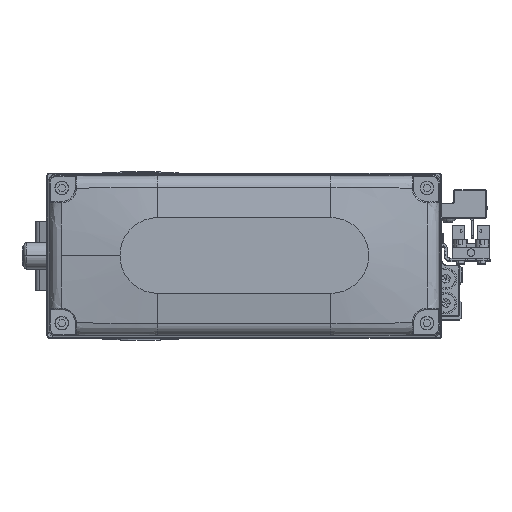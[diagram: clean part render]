
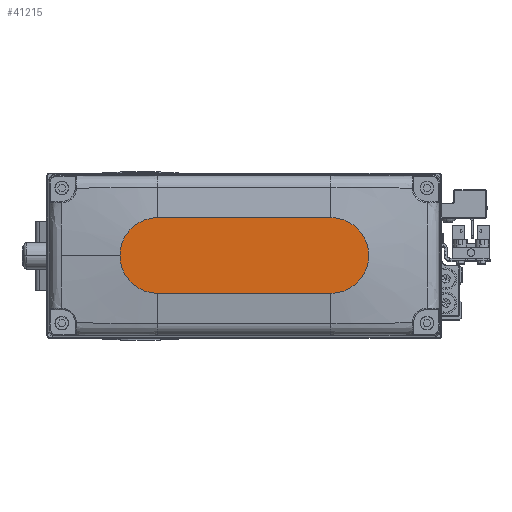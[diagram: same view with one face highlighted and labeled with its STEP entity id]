
A CAD part, top view. The second image highlights one B-rep face of the part: STEP entity #41215.
In plain terms, the highlighted planar face has unit normal (0, 0, 1).
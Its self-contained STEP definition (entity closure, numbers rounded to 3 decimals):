
#2715 = EDGE_CURVE ( 'NONE', #18014, #40183, #30354, .T. ) ;
#3640 = ORIENTED_EDGE ( 'NONE', *, *, #21258, .T. ) ;
#4697 = LINE ( 'NONE', #18041, #12096 ) ;
#5534 = CARTESIAN_POINT ( 'NONE',  ( -32., 0., 35. ) ) ;
#8188 = DIRECTION ( 'NONE',  ( 0., 0., 1. ) ) ;
#9440 = DIRECTION ( 'NONE',  ( 0., 0., 1. ) ) ;
#10390 = CARTESIAN_POINT ( 'NONE',  ( 32., 14., 35. ) ) ;
#10718 = ORIENTED_EDGE ( 'NONE', *, *, #36287, .T. ) ;
#11068 = DIRECTION ( 'NONE',  ( 0., 0., 1. ) ) ;
#11457 = FACE_OUTER_BOUND ( 'NONE', #26354, .T. ) ;
#11497 = AXIS2_PLACEMENT_3D ( 'NONE', #5534, #18862, #32188 ) ;
#12050 = DIRECTION ( 'NONE',  ( 1., 0., 0. ) ) ;
#12096 = VECTOR ( 'NONE', #31355, 1000. ) ;
#12664 = VERTEX_POINT ( 'NONE', #10390 ) ;
#12666 = CARTESIAN_POINT ( 'NONE',  ( 46., 0., 35. ) ) ;
#16248 = CIRCLE ( 'NONE', #40667, 14. ) ;
#18014 = VERTEX_POINT ( 'NONE', #25052 ) ;
#18041 = CARTESIAN_POINT ( 'NONE',  ( -32., 14., 35. ) ) ;
#18862 = DIRECTION ( 'NONE',  ( 0., 0., 1. ) ) ;
#20720 = AXIS2_PLACEMENT_3D ( 'NONE', #38138, #8188, #21512 ) ;
#21258 = EDGE_CURVE ( 'NONE', #40183, #21901, #28664, .T. ) ;
#21512 = DIRECTION ( 'NONE',  ( 1., 0., 0. ) ) ;
#21901 = VERTEX_POINT ( 'NONE', #23741 ) ;
#22756 = DIRECTION ( 'NONE',  ( 1., 0., 0. ) ) ;
#23741 = CARTESIAN_POINT ( 'NONE',  ( 32., -14., 35. ) ) ;
#23974 = AXIS2_PLACEMENT_3D ( 'NONE', #41018, #11068, #24387 ) ;
#23996 = EDGE_CURVE ( 'NONE', #21901, #35600, #16248, .T. ) ;
#24387 = DIRECTION ( 'NONE',  ( 1., 0., 0. ) ) ;
#24621 = EDGE_CURVE ( 'NONE', #12664, #18014, #4697, .T. ) ;
#24799 = PLANE ( 'NONE',  #20720 ) ;
#25052 = CARTESIAN_POINT ( 'NONE',  ( -32., 14., 35. ) ) ;
#26354 = EDGE_LOOP ( 'NONE', ( #35180, #33449, #3640, #33893, #10718 ) ) ;
#28664 = LINE ( 'NONE', #41992, #32517 ) ;
#30354 = CIRCLE ( 'NONE', #11497, 14. ) ;
#31355 = DIRECTION ( 'NONE',  ( -1., 0., 0. ) ) ;
#32188 = DIRECTION ( 'NONE',  ( 1., 0., 0. ) ) ;
#32517 = VECTOR ( 'NONE', #12050, 1000. ) ;
#33449 = ORIENTED_EDGE ( 'NONE', *, *, #2715, .T. ) ;
#33893 = ORIENTED_EDGE ( 'NONE', *, *, #23996, .T. ) ;
#35180 = ORIENTED_EDGE ( 'NONE', *, *, #24621, .T. ) ;
#35600 = VERTEX_POINT ( 'NONE', #12666 ) ;
#36287 = EDGE_CURVE ( 'NONE', #35600, #12664, #42830, .T. ) ;
#38138 = CARTESIAN_POINT ( 'NONE',  ( 0., 0., 35. ) ) ;
#38816 = CARTESIAN_POINT ( 'NONE',  ( -32., -14., 35. ) ) ;
#39361 = CARTESIAN_POINT ( 'NONE',  ( 32., 0., 35. ) ) ;
#40183 = VERTEX_POINT ( 'NONE', #38816 ) ;
#40667 = AXIS2_PLACEMENT_3D ( 'NONE', #39361, #9440, #22756 ) ;
#41018 = CARTESIAN_POINT ( 'NONE',  ( 32., 0., 35. ) ) ;
#41215 = ADVANCED_FACE ( 'NONE', ( #11457 ), #24799, .T. ) ;
#41992 = CARTESIAN_POINT ( 'NONE',  ( -32., -14., 35. ) ) ;
#42830 = CIRCLE ( 'NONE', #23974, 14. ) ;
